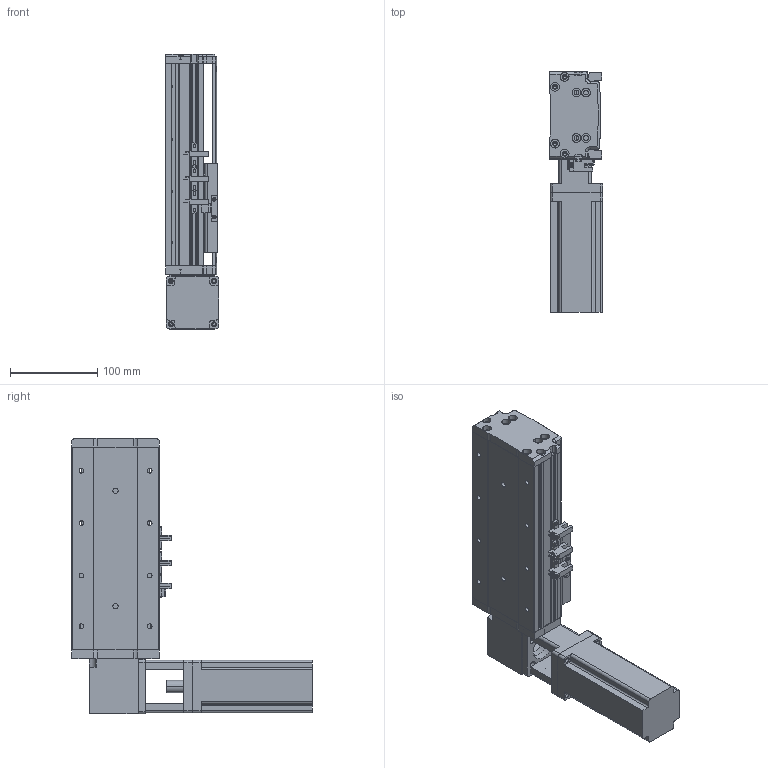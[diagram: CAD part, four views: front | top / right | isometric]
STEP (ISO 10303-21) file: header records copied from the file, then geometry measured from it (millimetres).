
FILE_DESCRIPTION (( 'STEP AP214' ), '1' );
FILE_NAME ('KSD100B-S50-MLT-CM.STEP', '2019-10-24T07:55:11', ( '微软用户' ), ( '微软中国' ), 'SwSTEP 2.0', 'SolidWorks 2014', '' );
FILE_SCHEMA (( 'AUTOMOTIVE_DESIGN' ));
Length unit declared in the file: millimetre
Products named in the file (12): KSD100B-S50-MLT-CM; 100宽安装板同步带带电机座400W,86; 100遵鎮湛假蚾啣1 ; 100宽防尘板50行程-同步带; U倰嫖萇EEㄜSX672; 覜茼え100遵圉猾敕; 台达ECMA－C20604AS伺服电机; 100宽马达安装板同步带右; 100宽同步带安装板半封闭; 100宽马达安装板同步带; 100遵傷啣肮祭湍; 100宽底板半封闭同步带50行程
Assembly tree (13 placements, depth 2):
  KSD100B-S50-MLT-CM
    100宽底板半封闭同步带50行程
    100遵傷啣肮祭湍
    100宽马达安装板同步带
    100宽同步带安装板半封闭
    100宽马达安装板同步带右
    台达ECMA－C20604AS伺服电机
    覜茼え100遵圉猾敕
    U倰嫖萇EEㄜSX672  x3
    100宽防尘板50行程-同步带
    100遵鎮湛假蚾啣1 
    100宽安装板同步带带电机座400W,86
Bounding box: 61 x 275 x 315 mm (x, y, z)
Volume: 1195080 mm3; surface area: 324684.5 mm2
Topology: 14 solids, 14 shells, 1220 faces, 3397 edges, 2197 vertices
Faces by surface type: cylinder 594, plane 551, cone 75
Entity records: 40825 total; most frequent: CARTESIAN_POINT 7326, DIRECTION 5833, ORIENTED_EDGE 5550, EDGE_CURVE 2775, AXIS2_PLACEMENT_3D 2122, VERTEX_POINT 1821, VECTOR 1589, LINE 1589
